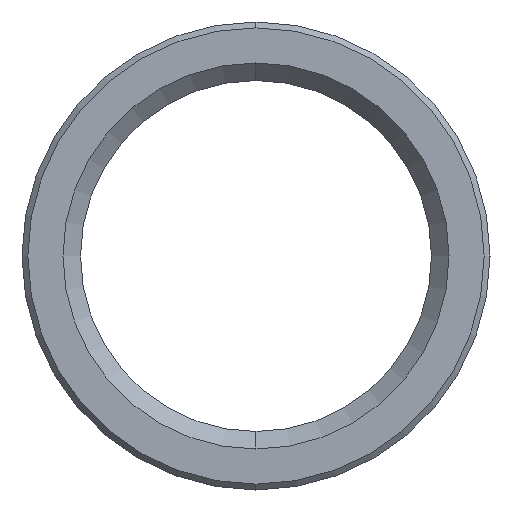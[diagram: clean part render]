
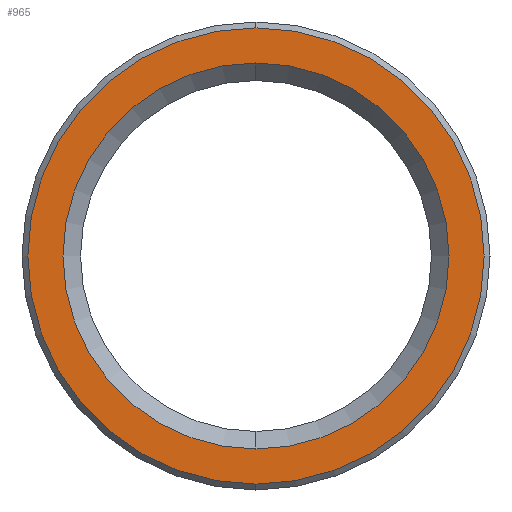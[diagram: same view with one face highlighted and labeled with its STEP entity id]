
A CAD part, left-side view. The second image highlights one B-rep face of the part: STEP entity #965.
In plain terms, the highlighted planar face has unit normal (-1, 0, 0).
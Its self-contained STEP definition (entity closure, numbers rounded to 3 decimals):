
#69 = CARTESIAN_POINT ( 'NONE',  ( 0., 0., 0. ) ) ;
#74 = PLANE ( 'NONE',  #592 ) ;
#99 = EDGE_LOOP ( 'NONE', ( #331, #896 ) ) ;
#126 = DIRECTION ( 'NONE',  ( -1., 0., 0. ) ) ;
#145 = ORIENTED_EDGE ( 'NONE', *, *, #539, .T. ) ;
#193 = DIRECTION ( 'NONE',  ( 0., 0., 1. ) ) ;
#214 = CARTESIAN_POINT ( 'NONE',  ( 0., 0., 3.3 ) ) ;
#249 = VERTEX_POINT ( 'NONE', #214 ) ;
#255 = FACE_OUTER_BOUND ( 'NONE', #549, .T. ) ;
#292 = CIRCLE ( 'NONE', #846, 3.9 ) ;
#303 = VERTEX_POINT ( 'NONE', #555 ) ;
#311 = CIRCLE ( 'NONE', #774, 3.3 ) ;
#331 = ORIENTED_EDGE ( 'NONE', *, *, #953, .T. ) ;
#344 = CARTESIAN_POINT ( 'NONE',  ( 0., 0., 0. ) ) ;
#397 = DIRECTION ( 'NONE',  ( 1., 0., 0. ) ) ;
#455 = CIRCLE ( 'NONE', #829, 3.9 ) ;
#518 = CARTESIAN_POINT ( 'NONE',  ( 0., 0., 3.9 ) ) ;
#539 = EDGE_CURVE ( 'NONE', #885, #1028, #292, .T. ) ;
#548 = CARTESIAN_POINT ( 'NONE',  ( 0., 0., 0. ) ) ;
#549 = EDGE_LOOP ( 'NONE', ( #145, #814 ) ) ;
#555 = CARTESIAN_POINT ( 'NONE',  ( 0., 0., -3.3 ) ) ;
#573 = DIRECTION ( 'NONE',  ( -1., 0., 0. ) ) ;
#580 = DIRECTION ( 'NONE',  ( 1., 0., 0. ) ) ;
#591 = DIRECTION ( 'NONE',  ( 1., 0., 0. ) ) ;
#592 = AXIS2_PLACEMENT_3D ( 'NONE', #69, #591, #660 ) ;
#611 = EDGE_CURVE ( 'NONE', #303, #249, #311, .T. ) ;
#639 = EDGE_CURVE ( 'NONE', #1028, #885, #455, .T. ) ;
#641 = DIRECTION ( 'NONE',  ( 0., 0., 1. ) ) ;
#645 = AXIS2_PLACEMENT_3D ( 'NONE', #344, #580, #744 ) ;
#660 = DIRECTION ( 'NONE',  ( 0., 0., -1. ) ) ;
#695 = CARTESIAN_POINT ( 'NONE',  ( 0., 0., -3.9 ) ) ;
#738 = FACE_BOUND ( 'NONE', #99, .T. ) ;
#744 = DIRECTION ( 'NONE',  ( 0., 0., -1. ) ) ;
#774 = AXIS2_PLACEMENT_3D ( 'NONE', #1050, #397, #973 ) ;
#814 = ORIENTED_EDGE ( 'NONE', *, *, #639, .T. ) ;
#829 = AXIS2_PLACEMENT_3D ( 'NONE', #892, #573, #641 ) ;
#846 = AXIS2_PLACEMENT_3D ( 'NONE', #548, #126, #193 ) ;
#885 = VERTEX_POINT ( 'NONE', #695 ) ;
#892 = CARTESIAN_POINT ( 'NONE',  ( 0., 0., 0. ) ) ;
#896 = ORIENTED_EDGE ( 'NONE', *, *, #611, .T. ) ;
#953 = EDGE_CURVE ( 'NONE', #249, #303, #1009, .T. ) ;
#965 = ADVANCED_FACE ( 'NONE', ( #738, #255 ), #74, .F. ) ;
#973 = DIRECTION ( 'NONE',  ( 0., 0., -1. ) ) ;
#1009 = CIRCLE ( 'NONE', #645, 3.3 ) ;
#1028 = VERTEX_POINT ( 'NONE', #518 ) ;
#1050 = CARTESIAN_POINT ( 'NONE',  ( 0., 0., 0. ) ) ;
